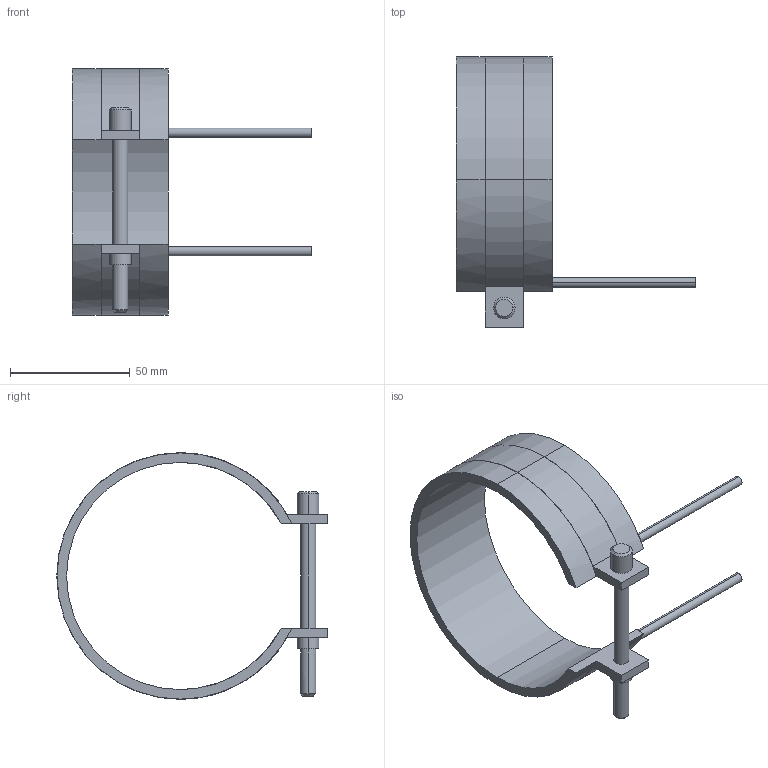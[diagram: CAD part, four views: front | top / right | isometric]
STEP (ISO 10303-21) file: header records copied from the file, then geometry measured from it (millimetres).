
FILE_DESCRIPTION(('CATIA V5 STEP Exchange'),'2;1');
FILE_NAME('C:\Users\Utente\Desktop\IO LAVORO\3D X SITO CF\X SITO\PLASTICA\RF2\14095040.stp','2021-04-06T16:04:11+00:00',('none'),('none'),'CATIA Version 5 Release 20 GA (IN-10)','CATIA V5 STEP AP203','none');
FILE_SCHEMA(('CONFIG_CONTROL_DESIGN'));
Length unit declared in the file: millimetre
Products named in the file (1): 14095040
Bounding box: 100 x 113.1 x 103.2 mm (x, y, z)
Volume: 49410.2 mm3; surface area: 28153.3 mm2
Topology: 1 solids, 1 shells, 45 faces, 116 edges, 76 vertices
Faces by surface type: cylinder 24, plane 17, cone 4
Entity records: 1406 total; most frequent: CARTESIAN_POINT 282, ORIENTED_EDGE 232, DIRECTION 195, EDGE_CURVE 116, AXIS2_PLACEMENT_3D 103, VERTEX_POINT 76, CIRCLE 61, VECTOR 52
